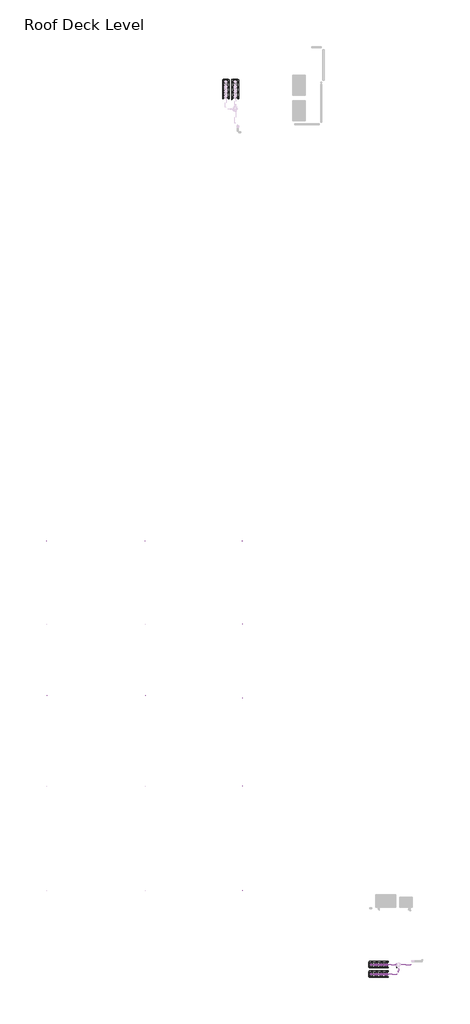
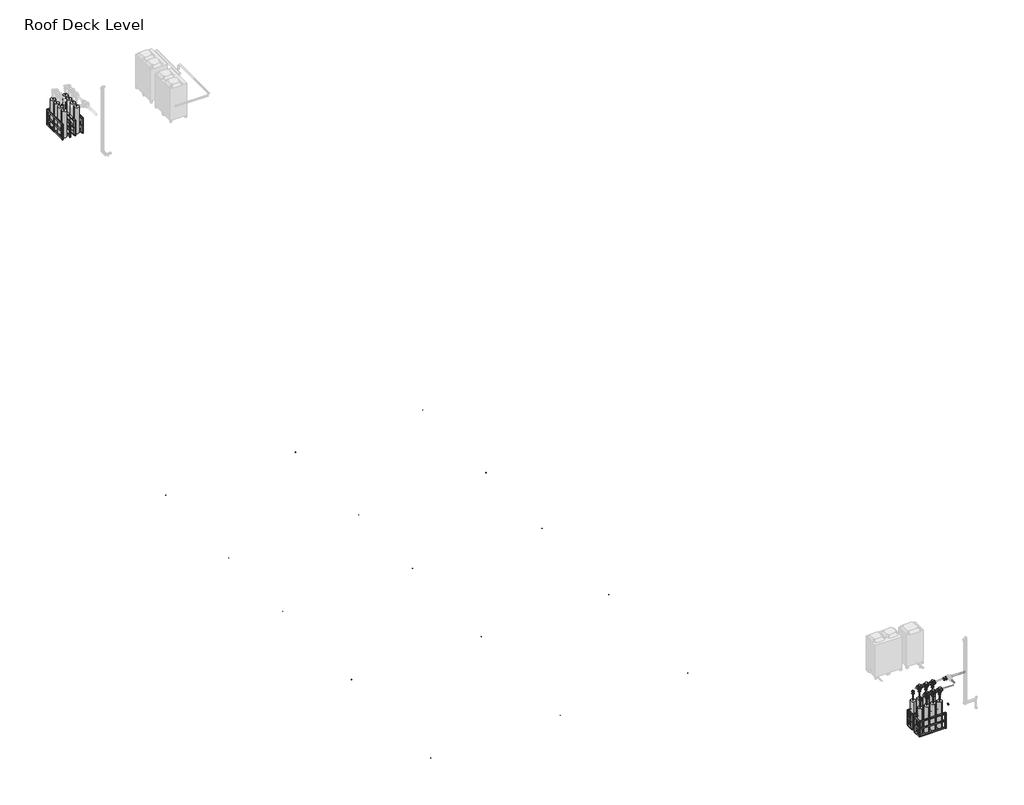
# One storey, part 1 of 3: 19 pipe segments, 15 light fixtures, 15 pipe fittings, 4 flow terminals.
"""IFC4 building model written with IfcOpenShell, lengths in millimetres."""

from ifc_helpers import new_model, si_unit, point, frame, frame_2d, origin, place, context, project, spatial, circle_curve, trimmed, segment, composite_curve, outline, extrude, transform, mapped, element, save
from components import flow_terminal_4c00ecbf, m_studio_light_120v_2dcb9a91, m_reducer_flanged_cs_class_150_standard_b6b67c23, m_reducer_flanged_cs_class_150_standard_6ae1fdcb, m_reducer_flanged_cs_class_150_standard_13db1923, m_tee_round_base_flanged_cs_class_150_standard_9c9133d0

model = new_model("IFC4")

# Units and contexts
model_context = context("Model", 3, world=origin())
ifc_project = project(units=[si_unit("LENGTHUNIT", "METRE", prefix="MILLI")], contexts=[model_context])

# Site, building, storey
site = spatial("IfcSite", under=ifc_project)
building = spatial("IfcBuilding", under=site)
storey = spatial("IfcBuildingStorey", under=building, Name="Roof Deck Level", Elevation=4400.0)

# Flow terminals
placement = place(None, origin())
flow_terminal_shape = flow_terminal_4c00ecbf(model_context)
element("IfcFlowTerminal", 1, ObjectType="Gas_Cylinder_Rack_4_Tanks_1x4_USAsafetycom_18954 : Gas_Cylinder_Rack_4_Tanks_1x4_USAsafetycom_18954", at=placement, inside=storey, context=model_context, shape_type="MappedRepresentation", body=[
    mapped(flow_terminal_shape, transform((-6181.330502, 18664.3611936, 4550.0), x_axis=(1.0, 0.0, 0.0), y_axis=(0.0, 1.0, 0.0), z_axis=(0.0, 0.0, 1.0))),
])
element("IfcFlowTerminal", 2, ObjectType="Gas_Cylinder_Rack_4_Tanks_1x4_USAsafetycom_18954 : Gas_Cylinder_Rack_4_Tanks_1x4_USAsafetycom_18954", at=placement, inside=storey, context=model_context, shape_type="MappedRepresentation", body=[
    mapped(flow_terminal_shape, transform((-6766.0546656, 18664.3611936, 4550.0), x_axis=(1.0, 0.0, 0.0), y_axis=(0.0, 1.0, 0.0), z_axis=(0.0, 0.0, 1.0))),
])
element("IfcFlowTerminal", 3, ObjectType="Gas_Cylinder_Rack_4_Tanks_1x4_USAsafetycom_18954 : Gas_Cylinder_Rack_4_Tanks_1x4_USAsafetycom_18954", at=placement, inside=storey, context=model_context, shape_type="MappedRepresentation", body=[
    mapped(flow_terminal_shape, transform((2259.9831599, -36236.9985971, 4550.0), x_axis=(0.0, 1.0, 0.0), y_axis=(-1.0, 0.0, 0.0), z_axis=(0.0, 0.0, 1.0))),
])
element("IfcFlowTerminal", 4, ObjectType="Gas_Cylinder_Rack_4_Tanks_1x4_USAsafetycom_18954 : Gas_Cylinder_Rack_4_Tanks_1x4_USAsafetycom_18954", at=placement, inside=storey, context=model_context, shape_type="MappedRepresentation", body=[
    mapped(flow_terminal_shape, transform((2259.9831599, -36821.7227607, 4550.0), x_axis=(0.0, 1.0, 0.0), y_axis=(-1.0, 0.0, 0.0), z_axis=(0.0, 0.0, 1.0))),
])

# Light fixtures
m_studio_light_120v_shape = m_studio_light_120v_2dcb9a91(model_context)
element("IfcLightFixture", 5, ObjectType="M_Studio Light : 120V", at=placement, inside=storey, context=model_context, shape_type="MappedRepresentation", body=[
    mapped(m_studio_light_120v_shape, transform((-11527.2327605, -9864.7846466, 4800.0), x_axis=(1.0, 0.0, 0.0), y_axis=(0.0, 1.0, 0.0), z_axis=(0.0, 0.0, 1.0))),
])
element("IfcLightFixture", 6, ObjectType="M_Studio Light : 120V", at=placement, inside=storey, context=model_context, shape_type="MappedRepresentation", body=[
    mapped(m_studio_light_120v_shape, transform((-11527.2327605, -15012.7846466, 4800.0), x_axis=(1.0, 0.0, 0.0), y_axis=(0.0, 1.0, 0.0), z_axis=(0.0, 0.0, 1.0))),
])
element("IfcLightFixture", 7, ObjectType="M_Studio Light : 120V", at=placement, inside=storey, context=model_context, shape_type="MappedRepresentation", body=[
    mapped(m_studio_light_120v_shape, transform((-11527.2327605, -19404.7846466, 4800.0), x_axis=(1.0, 0.0, 0.0), y_axis=(0.0, 1.0, 0.0), z_axis=(0.0, 0.0, 1.0))),
])
element("IfcLightFixture", 8, ObjectType="M_Studio Light : 120V", at=placement, inside=storey, context=model_context, shape_type="MappedRepresentation", body=[
    mapped(m_studio_light_120v_shape, transform((-11527.2327605, -25004.7846466, 4800.0), x_axis=(1.0, 0.0, 0.0), y_axis=(0.0, 1.0, 0.0), z_axis=(0.0, 0.0, 1.0))),
])
element("IfcLightFixture", 9, ObjectType="M_Studio Light : 120V", at=placement, inside=storey, context=model_context, shape_type="MappedRepresentation", body=[
    mapped(m_studio_light_120v_shape, transform((-11527.2327605, -31454.7846468, 4800.0), x_axis=(1.0, 0.0, 0.0), y_axis=(0.0, 1.0, 0.0), z_axis=(0.0, 0.0, 1.0))),
])
element("IfcLightFixture", 10, ObjectType="M_Studio Light : 120V", at=placement, inside=storey, context=model_context, shape_type="MappedRepresentation", body=[
    mapped(m_studio_light_120v_shape, transform((-17631.8152535, -9864.7846466, 4800.0), x_axis=(1.0, 0.0, 0.0), y_axis=(0.0, 1.0, 0.0), z_axis=(0.0, 0.0, 1.0))),
])
element("IfcLightFixture", 11, ObjectType="M_Studio Light : 120V", at=placement, inside=storey, context=model_context, shape_type="MappedRepresentation", body=[
    mapped(m_studio_light_120v_shape, transform((-17631.8152535, -15012.7846466, 4800.0), x_axis=(1.0, 0.0, 0.0), y_axis=(0.0, 1.0, 0.0), z_axis=(0.0, 0.0, 1.0))),
])
element("IfcLightFixture", 12, ObjectType="M_Studio Light : 120V", at=placement, inside=storey, context=model_context, shape_type="MappedRepresentation", body=[
    mapped(m_studio_light_120v_shape, transform((-17631.8152535, -19404.7846466, 4800.0), x_axis=(1.0, 0.0, 0.0), y_axis=(0.0, 1.0, 0.0), z_axis=(0.0, 0.0, 1.0))),
])
element("IfcLightFixture", 13, ObjectType="M_Studio Light : 120V", at=placement, inside=storey, context=model_context, shape_type="MappedRepresentation", body=[
    mapped(m_studio_light_120v_shape, transform((-17631.8152535, -25004.7846466, 4800.0), x_axis=(1.0, 0.0, 0.0), y_axis=(0.0, 1.0, 0.0), z_axis=(0.0, 0.0, 1.0))),
])
element("IfcLightFixture", 14, ObjectType="M_Studio Light : 120V", at=placement, inside=storey, context=model_context, shape_type="MappedRepresentation", body=[
    mapped(m_studio_light_120v_shape, transform((-17631.8152535, -31454.7846468, 4800.0), x_axis=(1.0, 0.0, 0.0), y_axis=(0.0, 1.0, 0.0), z_axis=(0.0, 0.0, 1.0))),
])
element("IfcLightFixture", 15, ObjectType="M_Studio Light : 120V", at=placement, inside=storey, context=model_context, shape_type="MappedRepresentation", body=[
    mapped(m_studio_light_120v_shape, transform((-5533.240678, -9864.7846466, 4800.0), x_axis=(1.0, 0.0, 0.0), y_axis=(0.0, 1.0, 0.0), z_axis=(0.0, 0.0, 1.0))),
])
element("IfcLightFixture", 16, ObjectType="M_Studio Light : 120V", at=placement, inside=storey, context=model_context, shape_type="MappedRepresentation", body=[
    mapped(m_studio_light_120v_shape, transform((-5533.240678, -15012.7846466, 4800.0), x_axis=(1.0, 0.0, 0.0), y_axis=(0.0, 1.0, 0.0), z_axis=(0.0, 0.0, 1.0))),
])
element("IfcLightFixture", 17, ObjectType="M_Studio Light : 120V", at=placement, inside=storey, context=model_context, shape_type="MappedRepresentation", body=[
    mapped(m_studio_light_120v_shape, transform((-5533.240678, -19574.7846466, 4800.0), x_axis=(1.0, 0.0, 0.0), y_axis=(0.0, 1.0, 0.0), z_axis=(0.0, 0.0, 1.0))),
])
element("IfcLightFixture", 18, ObjectType="M_Studio Light : 120V", at=placement, inside=storey, context=model_context, shape_type="MappedRepresentation", body=[
    mapped(m_studio_light_120v_shape, transform((-5533.240678, -25004.7846466, 4800.0), x_axis=(1.0, 0.0, 0.0), y_axis=(0.0, 1.0, 0.0), z_axis=(0.0, 0.0, 1.0))),
])
element("IfcLightFixture", 19, ObjectType="M_Studio Light : 120V", at=placement, inside=storey, context=model_context, shape_type="MappedRepresentation", body=[
    mapped(m_studio_light_120v_shape, transform((-5533.240678, -31454.7846468, 4800.0), x_axis=(1.0, 0.0, 0.0), y_axis=(0.0, 1.0, 0.0), z_axis=(0.0, 0.0, 1.0))),
])

# Pipe fittings
m_reducer_flanged_cs_class_150_standard_shape = m_reducer_flanged_cs_class_150_standard_b6b67c23(model_context)
element("IfcPipeFitting", 20, ObjectType="M_Reducer - Flanged - CS - Class 150 : Standard", at=placement, inside=storey, context=model_context, shape_type="MappedRepresentation", body=[
    mapped(m_reducer_flanged_cs_class_150_standard_shape, transform((2729.8831599, -36618.5227607, 6293.9014063), x_axis=(0.0, 0.0, -1.0), y_axis=(1.0, 0.0, 0.0), z_axis=(0.0, -1.0, 0.0))),
])
element("IfcPipeFitting", 21, ObjectType="M_Reducer - Flanged - CS - Class 150 : Standard", at=placement, inside=storey, context=model_context, shape_type="MappedRepresentation", body=[
    mapped(m_reducer_flanged_cs_class_150_standard_shape, transform((3339.4831599, -36618.5227607, 6293.9014063), x_axis=(0.0, 0.0, -1.0), y_axis=(1.0, 0.0, 0.0), z_axis=(0.0, -1.0, 0.0))),
])
element("IfcPipeFitting", 22, ObjectType="M_Reducer - Flanged - CS - Class 150 : Standard", at=placement, inside=storey, context=model_context, shape_type="MappedRepresentation", body=[
    mapped(m_reducer_flanged_cs_class_150_standard_shape, transform((2729.8831599, -36033.7985971, 6293.9014063), x_axis=(0.0, 0.0, -1.0), y_axis=(1.0, 0.0, 0.0), z_axis=(0.0, -1.0, 0.0))),
])
element("IfcPipeFitting", 23, ObjectType="M_Reducer - Flanged - CS - Class 150 : Standard", at=placement, inside=storey, context=model_context, shape_type="MappedRepresentation", body=[
    mapped(m_reducer_flanged_cs_class_150_standard_shape, transform((3339.4831599, -36033.7985971, 6293.9014063), x_axis=(0.0, 0.0, -1.0), y_axis=(1.0, 0.0, 0.0), z_axis=(0.0, -1.0, 0.0))),
])
m_reducer_flanged_cs_class_150_standard_2_shape = m_reducer_flanged_cs_class_150_standard_6ae1fdcb(model_context)
element("IfcPipeFitting", 24, ObjectType="M_Reducer - Flanged - CS - Class 150 : Standard", at=placement, inside=storey, context=model_context, shape_type="MappedRepresentation", body=[
    mapped(m_reducer_flanged_cs_class_150_standard_2_shape, transform((2425.0831599, -36618.5227607, 6293.9014063), x_axis=(0.0, 0.0, -1.0), y_axis=(0.0, -1.0, 0.0), z_axis=(-1.0, 0.0, 0.0))),
])
element("IfcPipeFitting", 25, ObjectType="M_Reducer - Flanged - CS - Class 150 : Standard", at=placement, inside=storey, context=model_context, shape_type="MappedRepresentation", body=[
    mapped(m_reducer_flanged_cs_class_150_standard_2_shape, transform((3034.6831599, -36618.5227607, 6293.9014063), x_axis=(0.0, 0.0, -1.0), y_axis=(0.0, -1.0, 0.0), z_axis=(-1.0, 0.0, 0.0))),
])
element("IfcPipeFitting", 26, ObjectType="M_Reducer - Flanged - CS - Class 150 : Standard", at=placement, inside=storey, context=model_context, shape_type="MappedRepresentation", body=[
    mapped(m_reducer_flanged_cs_class_150_standard_2_shape, transform((2425.0831599, -36033.7985971, 6293.9014063), x_axis=(0.0, 0.0, -1.0), y_axis=(0.0, -1.0, 0.0), z_axis=(-1.0, 0.0, 0.0))),
])
element("IfcPipeFitting", 27, ObjectType="M_Reducer - Flanged - CS - Class 150 : Standard", at=placement, inside=storey, context=model_context, shape_type="MappedRepresentation", body=[
    mapped(m_reducer_flanged_cs_class_150_standard_2_shape, transform((3034.6831599, -36033.7985971, 6293.9014063), x_axis=(0.0, 0.0, -1.0), y_axis=(0.0, -1.0, 0.0), z_axis=(-1.0, 0.0, 0.0))),
])
m_reducer_flanged_cs_class_150_standard_3_shape = m_reducer_flanged_cs_class_150_standard_13db1923(model_context)
element("IfcPipeFitting", 28, ObjectType="M_Reducer - Flanged - CS - Class 150 : Standard", at=placement, inside=storey, context=model_context, shape_type="MappedRepresentation", body=[
    mapped(m_reducer_flanged_cs_class_150_standard_3_shape, transform((3991.5817536, -36033.7985971, 6400.0), x_axis=(-1.0, 0.0, 0.0), y_axis=(0.0, -1.0, 0.0), z_axis=(0.0, 0.0, 1.0))),
])
m_tee_round_base_flanged_cs_class_150_standard_shape = m_tee_round_base_flanged_cs_class_150_standard_9c9133d0(model_context)
element("IfcPipeFitting", 29, ObjectType="M_Tee Round Base - Flanged - CS - Class 150 : Standard", at=placement, inside=storey, context=model_context, shape_type="MappedRepresentation", body=[
    mapped(m_tee_round_base_flanged_cs_class_150_standard_shape, transform((2729.8831599, -36618.5227607, 6400.0), x_axis=(-1.0, 0.0, 0.0), y_axis=(0.0, 0.0, 1.0), z_axis=(0.0, 1.0, 0.0))),
])
element("IfcPipeFitting", 30, ObjectType="M_Tee Round Base - Flanged - CS - Class 150 : Standard", at=placement, inside=storey, context=model_context, shape_type="MappedRepresentation", body=[
    mapped(m_tee_round_base_flanged_cs_class_150_standard_shape, transform((3034.6831599, -36618.5227607, 6400.0), x_axis=(-1.0, 0.0, 0.0), y_axis=(0.0, 0.0, 1.0), z_axis=(0.0, 1.0, 0.0))),
])
element("IfcPipeFitting", 31, ObjectType="M_Tee Round Base - Flanged - CS - Class 150 : Standard", at=placement, inside=storey, context=model_context, shape_type="MappedRepresentation", body=[
    mapped(m_tee_round_base_flanged_cs_class_150_standard_shape, transform((3339.4831599, -36618.5227607, 6400.0), x_axis=(1.0, 0.0, 0.0), y_axis=(0.0, 0.0, 1.0), z_axis=(0.0, -1.0, 0.0))),
])
element("IfcPipeFitting", 32, ObjectType="M_Tee Round Base - Flanged - CS - Class 150 : Standard", at=placement, inside=storey, context=model_context, shape_type="MappedRepresentation", body=[
    mapped(m_tee_round_base_flanged_cs_class_150_standard_shape, transform((2729.8831599, -36033.7985971, 6400.0), x_axis=(-1.0, 0.0, 0.0), y_axis=(0.0, 0.0, 1.0), z_axis=(0.0, 1.0, 0.0))),
])
element("IfcPipeFitting", 33, ObjectType="M_Tee Round Base - Flanged - CS - Class 150 : Standard", at=placement, inside=storey, context=model_context, shape_type="MappedRepresentation", body=[
    mapped(m_tee_round_base_flanged_cs_class_150_standard_shape, transform((3034.6831599, -36033.7985971, 6400.0), x_axis=(-1.0, 0.0, 0.0), y_axis=(0.0, 0.0, 1.0), z_axis=(0.0, 1.0, 0.0))),
])
element("IfcPipeFitting", 34, ObjectType="M_Tee Round Base - Flanged - CS - Class 150 : Standard", at=placement, inside=storey, context=model_context, shape_type="MappedRepresentation", body=[
    mapped(m_tee_round_base_flanged_cs_class_150_standard_shape, transform((3339.4831599, -36033.7985971, 6400.0), x_axis=(1.0, 0.0, 0.0), y_axis=(0.0, 0.0, 1.0), z_axis=(0.0, -1.0, 0.0))),
])

# Pipe segments
element("IfcPipeSegment", 35, ObjectType="PVC - DWV", at=placement, inside=storey, context=model_context, shape_type="SweptSolid", body=[
    extrude(outline(composite_curve([segment(trimmed(circle_curve(frame_2d((0.0, -36.5125)), 36.5125), [point((0.0, -73.025))], [point((-36.5125, -36.5125))], False, "CARTESIAN"), True, "CONTINUOUS"), segment(trimmed(circle_curve(frame_2d((0.0, -36.5125)), 36.5125), [point((-36.5125, -36.5125))], [point((0.0, 0.0))], False, "CARTESIAN"), True, "CONTINUOUS"), segment(trimmed(circle_curve(frame_2d((0.0, -36.5125)), 36.5125), [point((0.0, 0.0))], [point((36.5125, -36.5125))], False, "CARTESIAN"), True, "CONTINUOUS"), segment(trimmed(circle_curve(frame_2d((0.0, -36.5125)), 36.5125), [point((36.5125, -36.5125))], [point((0.0, -73.025))], False, "CARTESIAN"), True, "CONTINUOUS")], self_intersect=False)), frame((3992.6535258, -36139.6276483, 5199.4075607), z_axis=(-0.999950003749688, 0.0, 0.009999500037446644), x_axis=(0.009999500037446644, 0.0, 0.999950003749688)), (0.0, 0.0, 1.0), 9.2493939),
])
element("IfcPipeSegment", 36, ObjectType="Steel flanged", at=placement, inside=storey, context=model_context, shape_type="SweptSolid", body=[
    extrude(outline(composite_curve([segment(trimmed(circle_curve(frame_2d((-36033.7985971, 6400.0)), 30.1625), [point((-36003.6360971, 6400.0))], [point((-36033.7985971, 6369.8375))], False, "CARTESIAN"), True, "CONTINUOUS"), segment(trimmed(circle_curve(frame_2d((-36033.7985971, 6400.0)), 30.1625), [point((-36033.7985971, 6369.8375))], [point((-36063.9610971, 6400.0))], False, "CARTESIAN"), True, "CONTINUOUS"), segment(trimmed(circle_curve(frame_2d((-36033.7985971, 6400.0)), 30.1625), [point((-36063.9610971, 6400.0))], [point((-36033.7985971, 6430.1625))], False, "CARTESIAN"), True, "CONTINUOUS"), segment(trimmed(circle_curve(frame_2d((-36033.7985971, 6400.0)), 30.1625), [point((-36033.7985971, 6430.1625))], [point((-36003.6360971, 6400.0))], False, "CARTESIAN"), True, "CONTINUOUS")], self_intersect=False)), frame((4219.5817536, 0.0, 0.0), z_axis=(1.0, 0.0, 0.0), x_axis=(0.0, 1.0, 0.0)), (0.0, 0.0, 1.0), 651.0357358),
])
element("IfcPipeSegment", 37, ObjectType="Steel flanged", at=placement, inside=storey, context=model_context, shape_type="SweptSolid", body=[
    extrude(outline(composite_curve([segment(trimmed(circle_curve(frame_2d((3339.4831599, -36618.5227607)), 16.7005), [point((3322.7826599, -36618.5227607))], [point((3339.4831599, -36601.8222607))], False, "CARTESIAN"), True, "CONTINUOUS"), segment(trimmed(circle_curve(frame_2d((3339.4831599, -36618.5227607)), 16.7005), [point((3339.4831599, -36601.8222607))], [point((3356.1836599, -36618.5227607))], False, "CARTESIAN"), True, "CONTINUOUS"), segment(trimmed(circle_curve(frame_2d((3339.4831599, -36618.5227607)), 16.7005), [point((3356.1836599, -36618.5227607))], [point((3339.4831599, -36635.2232607))], False, "CARTESIAN"), True, "CONTINUOUS"), segment(trimmed(circle_curve(frame_2d((3339.4831599, -36618.5227607)), 16.7005), [point((3339.4831599, -36635.2232607))], [point((3322.7826599, -36618.5227607))], False, "CARTESIAN"), True, "CONTINUOUS")], self_intersect=False)), frame((0.0, 0.0, 5895.4), z_axis=(0.0, 0.0, 1.0), x_axis=(1.0, 0.0, 0.0)), (0.0, 0.0, 1.0), 284.5014063),
])
element("IfcPipeSegment", 38, ObjectType="Steel flanged", at=placement, inside=storey, context=model_context, shape_type="SweptSolid", body=[
    extrude(outline(composite_curve([segment(trimmed(circle_curve(frame_2d((-36618.5227607, 6400.0)), 21.082), [point((-36639.6047607, 6400.0))], [point((-36618.5227607, 6421.082))], False, "CARTESIAN"), True, "CONTINUOUS"), segment(trimmed(circle_curve(frame_2d((-36618.5227607, 6400.0)), 21.082), [point((-36618.5227607, 6421.082))], [point((-36597.4407607, 6400.0))], False, "CARTESIAN"), True, "CONTINUOUS"), segment(trimmed(circle_curve(frame_2d((-36618.5227607, 6400.0)), 21.082), [point((-36597.4407607, 6400.0))], [point((-36618.5227607, 6378.918))], False, "CARTESIAN"), True, "CONTINUOUS"), segment(trimmed(circle_curve(frame_2d((-36618.5227607, 6400.0)), 21.082), [point((-36618.5227607, 6378.918))], [point((-36639.6047607, 6400.0))], False, "CARTESIAN"), True, "CONTINUOUS")], self_intersect=False)), frame((3140.7817536, 0.0, 0.0), z_axis=(1.0, 0.0, 0.0), x_axis=(0.0, 1.0, 0.0)), (0.0, 0.0, 1.0), 92.6028125),
])
element("IfcPipeSegment", 39, ObjectType="Steel flanged", at=placement, inside=storey, context=model_context, shape_type="SweptSolid", body=[
    extrude(outline(composite_curve([segment(trimmed(circle_curve(frame_2d((2425.0831599, -36618.5227607)), 16.7005), [point((2408.3826599, -36618.5227607))], [point((2425.0831599, -36601.8222607))], False, "CARTESIAN"), True, "CONTINUOUS"), segment(trimmed(circle_curve(frame_2d((2425.0831599, -36618.5227607)), 16.7005), [point((2425.0831599, -36601.8222607))], [point((2441.7836599, -36618.5227607))], False, "CARTESIAN"), True, "CONTINUOUS"), segment(trimmed(circle_curve(frame_2d((2425.0831599, -36618.5227607)), 16.7005), [point((2441.7836599, -36618.5227607))], [point((2425.0831599, -36635.2232607))], False, "CARTESIAN"), True, "CONTINUOUS"), segment(trimmed(circle_curve(frame_2d((2425.0831599, -36618.5227607)), 16.7005), [point((2425.0831599, -36635.2232607))], [point((2408.3826599, -36618.5227607))], False, "CARTESIAN"), True, "CONTINUOUS")], self_intersect=False)), frame((0.0, 0.0, 5895.4), z_axis=(0.0, 0.0, 1.0), x_axis=(1.0, 0.0, 0.0)), (0.0, 0.0, 1.0), 284.5014063),
])
element("IfcPipeSegment", 40, ObjectType="Steel flanged", at=placement, inside=storey, context=model_context, shape_type="SweptSolid", body=[
    extrude(outline(composite_curve([segment(trimmed(circle_curve(frame_2d((-36618.5227607, 6400.0)), 21.082), [point((-36639.6047607, 6400.0))], [point((-36618.5227607, 6421.082))], False, "CARTESIAN"), True, "CONTINUOUS"), segment(trimmed(circle_curve(frame_2d((-36618.5227607, 6400.0)), 21.082), [point((-36618.5227607, 6421.082))], [point((-36597.4407607, 6400.0))], False, "CARTESIAN"), True, "CONTINUOUS"), segment(trimmed(circle_curve(frame_2d((-36618.5227607, 6400.0)), 21.082), [point((-36597.4407607, 6400.0))], [point((-36618.5227607, 6378.918))], False, "CARTESIAN"), True, "CONTINUOUS"), segment(trimmed(circle_curve(frame_2d((-36618.5227607, 6400.0)), 21.082), [point((-36618.5227607, 6378.918))], [point((-36639.6047607, 6400.0))], False, "CARTESIAN"), True, "CONTINUOUS")], self_intersect=False)), frame((2531.1817536, 0.0, 0.0), z_axis=(1.0, 0.0, 0.0), x_axis=(0.0, 1.0, 0.0)), (0.0, 0.0, 1.0), 92.6028125),
])
element("IfcPipeSegment", 41, ObjectType="Steel flanged", at=placement, inside=storey, context=model_context, shape_type="SweptSolid", body=[
    extrude(outline(composite_curve([segment(trimmed(circle_curve(frame_2d((2729.8831599, -36618.5227607)), 16.7005), [point((2713.1826599, -36618.5227607))], [point((2729.8831599, -36601.8222607))], False, "CARTESIAN"), True, "CONTINUOUS"), segment(trimmed(circle_curve(frame_2d((2729.8831599, -36618.5227607)), 16.7005), [point((2729.8831599, -36601.8222607))], [point((2746.5836599, -36618.5227607))], False, "CARTESIAN"), True, "CONTINUOUS"), segment(trimmed(circle_curve(frame_2d((2729.8831599, -36618.5227607)), 16.7005), [point((2746.5836599, -36618.5227607))], [point((2729.8831599, -36635.2232607))], False, "CARTESIAN"), True, "CONTINUOUS"), segment(trimmed(circle_curve(frame_2d((2729.8831599, -36618.5227607)), 16.7005), [point((2729.8831599, -36635.2232607))], [point((2713.1826599, -36618.5227607))], False, "CARTESIAN"), True, "CONTINUOUS")], self_intersect=False)), frame((0.0, 0.0, 5895.4), z_axis=(0.0, 0.0, 1.0), x_axis=(1.0, 0.0, 0.0)), (0.0, 0.0, 1.0), 284.5014063),
])
element("IfcPipeSegment", 42, ObjectType="Steel flanged", at=placement, inside=storey, context=model_context, shape_type="SweptSolid", body=[
    extrude(outline(composite_curve([segment(trimmed(circle_curve(frame_2d((-36618.5227607, 6400.0)), 21.082), [point((-36639.6047607, 6400.0))], [point((-36618.5227607, 6421.082))], False, "CARTESIAN"), True, "CONTINUOUS"), segment(trimmed(circle_curve(frame_2d((-36618.5227607, 6400.0)), 21.082), [point((-36618.5227607, 6421.082))], [point((-36597.4407607, 6400.0))], False, "CARTESIAN"), True, "CONTINUOUS"), segment(trimmed(circle_curve(frame_2d((-36618.5227607, 6400.0)), 21.082), [point((-36597.4407607, 6400.0))], [point((-36618.5227607, 6378.918))], False, "CARTESIAN"), True, "CONTINUOUS"), segment(trimmed(circle_curve(frame_2d((-36618.5227607, 6400.0)), 21.082), [point((-36618.5227607, 6378.918))], [point((-36639.6047607, 6400.0))], False, "CARTESIAN"), True, "CONTINUOUS")], self_intersect=False)), frame((2835.9817536, 0.0, 0.0), z_axis=(1.0, 0.0, 0.0), x_axis=(0.0, 1.0, 0.0)), (0.0, 0.0, 1.0), 92.6028125),
])
element("IfcPipeSegment", 43, ObjectType="Steel flanged", at=placement, inside=storey, context=model_context, shape_type="SweptSolid", body=[
    extrude(outline(composite_curve([segment(trimmed(circle_curve(frame_2d((3034.6831599, -36618.5227607)), 16.7005), [point((3017.9826599, -36618.5227607))], [point((3034.6831599, -36601.8222607))], False, "CARTESIAN"), True, "CONTINUOUS"), segment(trimmed(circle_curve(frame_2d((3034.6831599, -36618.5227607)), 16.7005), [point((3034.6831599, -36601.8222607))], [point((3051.3836599, -36618.5227607))], False, "CARTESIAN"), True, "CONTINUOUS"), segment(trimmed(circle_curve(frame_2d((3034.6831599, -36618.5227607)), 16.7005), [point((3051.3836599, -36618.5227607))], [point((3034.6831599, -36635.2232607))], False, "CARTESIAN"), True, "CONTINUOUS"), segment(trimmed(circle_curve(frame_2d((3034.6831599, -36618.5227607)), 16.7005), [point((3034.6831599, -36635.2232607))], [point((3017.9826599, -36618.5227607))], False, "CARTESIAN"), True, "CONTINUOUS")], self_intersect=False)), frame((0.0, 0.0, 5895.4), z_axis=(0.0, 0.0, 1.0), x_axis=(1.0, 0.0, 0.0)), (0.0, 0.0, 1.0), 284.5014063),
])
element("IfcPipeSegment", 44, ObjectType="Steel flanged", at=placement, inside=storey, context=model_context, shape_type="SweptSolid", body=[
    extrude(outline(composite_curve([segment(trimmed(circle_curve(frame_2d((-36618.5227607, 6400.0)), 21.082), [point((-36639.6047607, 6400.0))], [point((-36618.5227607, 6421.082))], False, "CARTESIAN"), True, "CONTINUOUS"), segment(trimmed(circle_curve(frame_2d((-36618.5227607, 6400.0)), 21.082), [point((-36618.5227607, 6421.082))], [point((-36597.4407607, 6400.0))], False, "CARTESIAN"), True, "CONTINUOUS"), segment(trimmed(circle_curve(frame_2d((-36618.5227607, 6400.0)), 21.082), [point((-36597.4407607, 6400.0))], [point((-36618.5227607, 6378.918))], False, "CARTESIAN"), True, "CONTINUOUS"), segment(trimmed(circle_curve(frame_2d((-36618.5227607, 6400.0)), 21.082), [point((-36618.5227607, 6378.918))], [point((-36639.6047607, 6400.0))], False, "CARTESIAN"), True, "CONTINUOUS")], self_intersect=False)), frame((3445.5817536, 0.0, 0.0), z_axis=(1.0, 0.0, 0.0), x_axis=(0.0, 1.0, 0.0)), (0.0, 0.0, 1.0), 553.9014063),
])
element("IfcPipeSegment", 45, ObjectType="Steel flanged", at=placement, inside=storey, context=model_context, shape_type="SweptSolid", body=[
    extrude(outline(composite_curve([segment(trimmed(circle_curve(frame_2d((-36033.7985971, 6400.0)), 21.082), [point((-36054.8805971, 6400.0))], [point((-36033.7985971, 6421.082))], False, "CARTESIAN"), True, "CONTINUOUS"), segment(trimmed(circle_curve(frame_2d((-36033.7985971, 6400.0)), 21.082), [point((-36033.7985971, 6421.082))], [point((-36012.7165971, 6400.0))], False, "CARTESIAN"), True, "CONTINUOUS"), segment(trimmed(circle_curve(frame_2d((-36033.7985971, 6400.0)), 21.082), [point((-36012.7165971, 6400.0))], [point((-36033.7985971, 6378.918))], False, "CARTESIAN"), True, "CONTINUOUS"), segment(trimmed(circle_curve(frame_2d((-36033.7985971, 6400.0)), 21.082), [point((-36033.7985971, 6378.918))], [point((-36054.8805971, 6400.0))], False, "CARTESIAN"), True, "CONTINUOUS")], self_intersect=False)), frame((3140.7817536, 0.0, 0.0), z_axis=(1.0, 0.0, 0.0), x_axis=(0.0, 1.0, 0.0)), (0.0, 0.0, 1.0), 92.6028125),
])
element("IfcPipeSegment", 46, ObjectType="Steel flanged", at=placement, inside=storey, context=model_context, shape_type="SweptSolid", body=[
    extrude(outline(composite_curve([segment(trimmed(circle_curve(frame_2d((-36033.7985971, 6400.0)), 21.082), [point((-36054.8805971, 6400.0))], [point((-36033.7985971, 6421.082))], False, "CARTESIAN"), True, "CONTINUOUS"), segment(trimmed(circle_curve(frame_2d((-36033.7985971, 6400.0)), 21.082), [point((-36033.7985971, 6421.082))], [point((-36012.7165971, 6400.0))], False, "CARTESIAN"), True, "CONTINUOUS"), segment(trimmed(circle_curve(frame_2d((-36033.7985971, 6400.0)), 21.082), [point((-36012.7165971, 6400.0))], [point((-36033.7985971, 6378.918))], False, "CARTESIAN"), True, "CONTINUOUS"), segment(trimmed(circle_curve(frame_2d((-36033.7985971, 6400.0)), 21.082), [point((-36033.7985971, 6378.918))], [point((-36054.8805971, 6400.0))], False, "CARTESIAN"), True, "CONTINUOUS")], self_intersect=False)), frame((2531.1817536, 0.0, 0.0), z_axis=(1.0, 0.0, 0.0), x_axis=(0.0, 1.0, 0.0)), (0.0, 0.0, 1.0), 92.6028125),
])
element("IfcPipeSegment", 47, ObjectType="Steel flanged", at=placement, inside=storey, context=model_context, shape_type="SweptSolid", body=[
    extrude(outline(composite_curve([segment(trimmed(circle_curve(frame_2d((-36033.7985971, 6400.0)), 21.082), [point((-36054.8805971, 6400.0))], [point((-36033.7985971, 6421.082))], False, "CARTESIAN"), True, "CONTINUOUS"), segment(trimmed(circle_curve(frame_2d((-36033.7985971, 6400.0)), 21.082), [point((-36033.7985971, 6421.082))], [point((-36012.7165971, 6400.0))], False, "CARTESIAN"), True, "CONTINUOUS"), segment(trimmed(circle_curve(frame_2d((-36033.7985971, 6400.0)), 21.082), [point((-36012.7165971, 6400.0))], [point((-36033.7985971, 6378.918))], False, "CARTESIAN"), True, "CONTINUOUS"), segment(trimmed(circle_curve(frame_2d((-36033.7985971, 6400.0)), 21.082), [point((-36033.7985971, 6378.918))], [point((-36054.8805971, 6400.0))], False, "CARTESIAN"), True, "CONTINUOUS")], self_intersect=False)), frame((2835.9817536, 0.0, 0.0), z_axis=(1.0, 0.0, 0.0), x_axis=(0.0, 1.0, 0.0)), (0.0, 0.0, 1.0), 92.6028125),
])
element("IfcPipeSegment", 48, ObjectType="Steel flanged", at=placement, inside=storey, context=model_context, shape_type="SweptSolid", body=[
    extrude(outline(composite_curve([segment(trimmed(circle_curve(frame_2d((2425.0831599, -36033.7985971)), 16.7005), [point((2441.7836599, -36033.7985971))], [point((2425.0831599, -36050.4990971))], False, "CARTESIAN"), True, "CONTINUOUS"), segment(trimmed(circle_curve(frame_2d((2425.0831599, -36033.7985971)), 16.7005), [point((2425.0831599, -36050.4990971))], [point((2408.3826599, -36033.7985971))], False, "CARTESIAN"), True, "CONTINUOUS"), segment(trimmed(circle_curve(frame_2d((2425.0831599, -36033.7985971)), 16.7005), [point((2408.3826599, -36033.7985971))], [point((2425.0831599, -36017.0980971))], False, "CARTESIAN"), True, "CONTINUOUS"), segment(trimmed(circle_curve(frame_2d((2425.0831599, -36033.7985971)), 16.7005), [point((2425.0831599, -36017.0980971))], [point((2441.7836599, -36033.7985971))], False, "CARTESIAN"), True, "CONTINUOUS")], self_intersect=False)), frame((0.0, 0.0, 5895.4), z_axis=(0.0, 0.0, 1.0), x_axis=(1.0, 0.0, 0.0)), (0.0, 0.0, 1.0), 284.5014063),
])
element("IfcPipeSegment", 49, ObjectType="Steel flanged", at=placement, inside=storey, context=model_context, shape_type="SweptSolid", body=[
    extrude(outline(composite_curve([segment(trimmed(circle_curve(frame_2d((2729.8831599, -36033.7985971)), 16.7005), [point((2746.5836599, -36033.7985971))], [point((2729.8831599, -36050.4990971))], False, "CARTESIAN"), True, "CONTINUOUS"), segment(trimmed(circle_curve(frame_2d((2729.8831599, -36033.7985971)), 16.7005), [point((2729.8831599, -36050.4990971))], [point((2713.1826599, -36033.7985971))], False, "CARTESIAN"), True, "CONTINUOUS"), segment(trimmed(circle_curve(frame_2d((2729.8831599, -36033.7985971)), 16.7005), [point((2713.1826599, -36033.7985971))], [point((2729.8831599, -36017.0980971))], False, "CARTESIAN"), True, "CONTINUOUS"), segment(trimmed(circle_curve(frame_2d((2729.8831599, -36033.7985971)), 16.7005), [point((2729.8831599, -36017.0980971))], [point((2746.5836599, -36033.7985971))], False, "CARTESIAN"), True, "CONTINUOUS")], self_intersect=False)), frame((0.0, 0.0, 5895.4), z_axis=(0.0, 0.0, 1.0), x_axis=(1.0, 0.0, 0.0)), (0.0, 0.0, 1.0), 284.5014063),
])
element("IfcPipeSegment", 50, ObjectType="Steel flanged", at=placement, inside=storey, context=model_context, shape_type="SweptSolid", body=[
    extrude(outline(composite_curve([segment(trimmed(circle_curve(frame_2d((3034.6831599, -36033.7985971)), 16.7005), [point((3051.3836599, -36033.7985971))], [point((3034.6831599, -36050.4990971))], False, "CARTESIAN"), True, "CONTINUOUS"), segment(trimmed(circle_curve(frame_2d((3034.6831599, -36033.7985971)), 16.7005), [point((3034.6831599, -36050.4990971))], [point((3017.9826599, -36033.7985971))], False, "CARTESIAN"), True, "CONTINUOUS"), segment(trimmed(circle_curve(frame_2d((3034.6831599, -36033.7985971)), 16.7005), [point((3017.9826599, -36033.7985971))], [point((3034.6831599, -36017.0980971))], False, "CARTESIAN"), True, "CONTINUOUS"), segment(trimmed(circle_curve(frame_2d((3034.6831599, -36033.7985971)), 16.7005), [point((3034.6831599, -36017.0980971))], [point((3051.3836599, -36033.7985971))], False, "CARTESIAN"), True, "CONTINUOUS")], self_intersect=False)), frame((0.0, 0.0, 5895.4), z_axis=(0.0, 0.0, 1.0), x_axis=(1.0, 0.0, 0.0)), (0.0, 0.0, 1.0), 284.5014063),
])
element("IfcPipeSegment", 51, ObjectType="Steel flanged", at=placement, inside=storey, context=model_context, shape_type="SweptSolid", body=[
    extrude(outline(composite_curve([segment(trimmed(circle_curve(frame_2d((3339.4831599, -36033.7985971)), 16.7005), [point((3356.1836599, -36033.7985971))], [point((3339.4831599, -36050.4990971))], False, "CARTESIAN"), True, "CONTINUOUS"), segment(trimmed(circle_curve(frame_2d((3339.4831599, -36033.7985971)), 16.7005), [point((3339.4831599, -36050.4990971))], [point((3322.7826599, -36033.7985971))], False, "CARTESIAN"), True, "CONTINUOUS"), segment(trimmed(circle_curve(frame_2d((3339.4831599, -36033.7985971)), 16.7005), [point((3322.7826599, -36033.7985971))], [point((3339.4831599, -36017.0980971))], False, "CARTESIAN"), True, "CONTINUOUS"), segment(trimmed(circle_curve(frame_2d((3339.4831599, -36033.7985971)), 16.7005), [point((3339.4831599, -36017.0980971))], [point((3356.1836599, -36033.7985971))], False, "CARTESIAN"), True, "CONTINUOUS")], self_intersect=False)), frame((0.0, 0.0, 5895.4), z_axis=(0.0, 0.0, 1.0), x_axis=(1.0, 0.0, 0.0)), (0.0, 0.0, 1.0), 284.5014063),
])
element("IfcPipeSegment", 52, ObjectType="Steel flanged", at=placement, inside=storey, context=model_context, shape_type="SweptSolid", body=[
    extrude(outline(composite_curve([segment(trimmed(circle_curve(frame_2d((6400.0, 4105.5817536)), 21.082), [point((6400.0, 4084.4997536))], [point((6378.918, 4105.5817536))], False, "CARTESIAN"), True, "CONTINUOUS"), segment(trimmed(circle_curve(frame_2d((6400.0, 4105.5817536)), 21.082), [point((6378.918, 4105.5817536))], [point((6400.0, 4126.6637536))], False, "CARTESIAN"), True, "CONTINUOUS"), segment(trimmed(circle_curve(frame_2d((6400.0, 4105.5817536)), 21.082), [point((6400.0, 4126.6637536))], [point((6421.082, 4105.5817536))], False, "CARTESIAN"), True, "CONTINUOUS"), segment(trimmed(circle_curve(frame_2d((6400.0, 4105.5817536)), 21.082), [point((6421.082, 4105.5817536))], [point((6400.0, 4084.4997536))], False, "CARTESIAN"), True, "CONTINUOUS")], self_intersect=False)), frame((0.0, -36512.424167, 0.0), z_axis=(0.0, 1.0, 0.0), x_axis=(0.0, 0.0, 1.0)), (0.0, 0.0, 1.0), 237.6255698),
])
element("IfcPipeSegment", 53, ObjectType="Steel flanged", at=placement, inside=storey, context=model_context, shape_type="SweptSolid", body=[
    extrude(outline(composite_curve([segment(trimmed(circle_curve(frame_2d((-36033.7985971, 6400.0)), 21.082), [point((-36054.8805971, 6400.0))], [point((-36033.7985971, 6421.082))], False, "CARTESIAN"), True, "CONTINUOUS"), segment(trimmed(circle_curve(frame_2d((-36033.7985971, 6400.0)), 21.082), [point((-36033.7985971, 6421.082))], [point((-36012.7165971, 6400.0))], False, "CARTESIAN"), True, "CONTINUOUS"), segment(trimmed(circle_curve(frame_2d((-36033.7985971, 6400.0)), 21.082), [point((-36012.7165971, 6400.0))], [point((-36033.7985971, 6378.918))], False, "CARTESIAN"), True, "CONTINUOUS"), segment(trimmed(circle_curve(frame_2d((-36033.7985971, 6400.0)), 21.082), [point((-36033.7985971, 6378.918))], [point((-36054.8805971, 6400.0))], False, "CARTESIAN"), True, "CONTINUOUS")], self_intersect=False)), frame((3445.5817536, 0.0, 0.0), z_axis=(1.0, 0.0, 0.0), x_axis=(0.0, 1.0, 0.0)), (0.0, 0.0, 1.0), 419.0),
])

save(model, "model.ifc")
